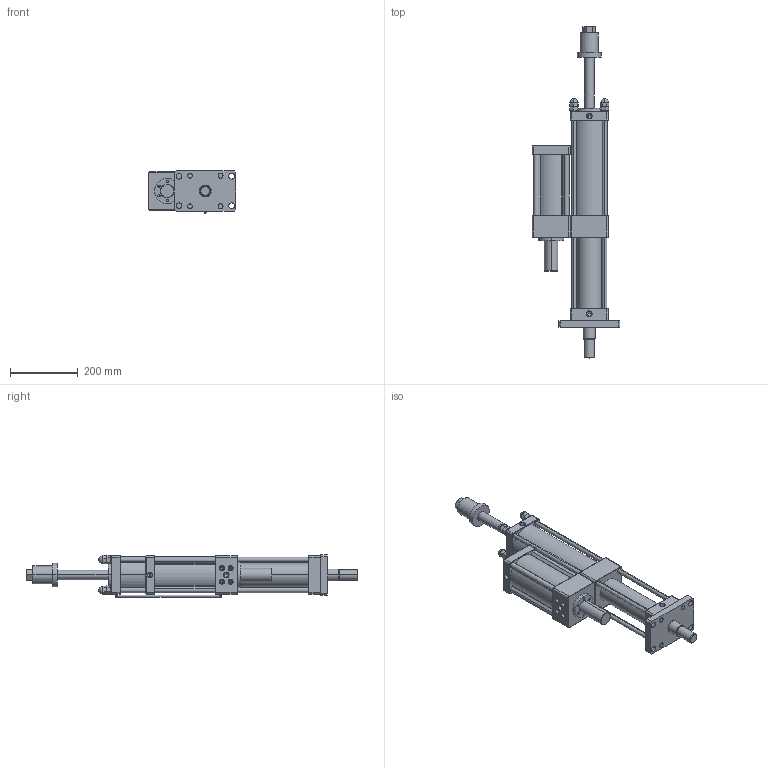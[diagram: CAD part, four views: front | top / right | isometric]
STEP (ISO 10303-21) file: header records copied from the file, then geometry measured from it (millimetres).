
FILE_DESCRIPTION (( 'STEP AP203' ), '1' );
FILE_NAME ('MPTD-80-150-10-5T.STEP', '2017-01-04T02:11:23', ( 'WIN' ), ( '' ), 'SwSTEP 2.0', 'SolidWorks 2014', '' );
FILE_SCHEMA (( 'CONFIG_CONTROL_DESIGN' ));
Length unit declared in the file: millimetre
Products named in the file (1): MPTD-80-150-10-5T
Bounding box: 258 x 977 x 124 mm (x, y, z)
Volume: 4693435.9 mm3; surface area: 899079.2 mm2
Topology: 5 solids, 13 shells, 566 faces, 1323 edges, 817 vertices
Faces by surface type: plane 303, cylinder 199, cone 56, torus 8
Entity records: 16004 total; most frequent: CARTESIAN_POINT 2957, DIRECTION 2821, ORIENTED_EDGE 2594, EDGE_CURVE 1297, AXIS2_PLACEMENT_3D 1049, VERTEX_POINT 817, LINE 723, VECTOR 723
